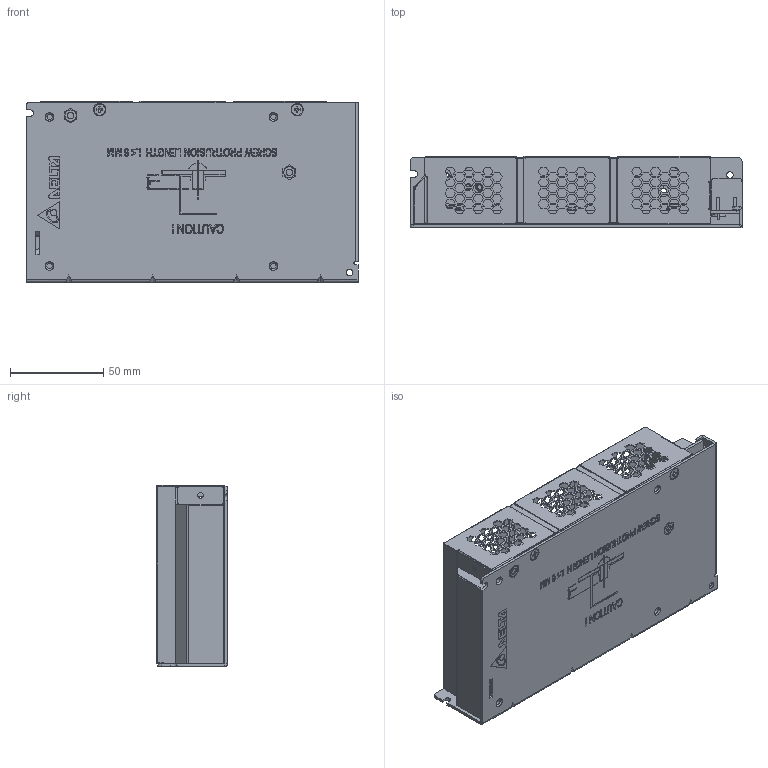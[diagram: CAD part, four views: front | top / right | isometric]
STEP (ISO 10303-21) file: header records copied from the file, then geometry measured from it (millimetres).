
FILE_DESCRIPTION((''),'2;1');
FILE_NAME('PMC-24V150W1AJ_ASM','2020-12-18T',('Natthinee.Dech'),(''),'PRO/ENGINEER BY PARAMETRIC TECHNOLOGY CORPORATION, 2010180','PRO/ENGINEER BY PARAMETRIC TECHNOLOGY CORPORATION, 2010180','');
FILE_SCHEMA(('CONFIG_CONTROL_DESIGN','SHAPE_APPEARANCE_LAYERS_GROUPS'));
Products named in the file (16): 331606170101; 326203860203; 3268095800; 2958037704_PWB; 307049867W; EE_LED; EE_VR; ASSY_PWB_PMC-24V150W1AJ_ASM; 3103301000; 3105320300; 3105320200; 3105317701; 331606180304; 331606180304_A_STUD; 331606180304_ASM; PMC-24V150W1AJ_ASM
Assembly tree (20 placements, depth 3):
  PMC-24V150W1AJ_ASM
    331606170101
    326203860203
    3268095800
    ASSY_PWB_PMC-24V150W1AJ_ASM
      2958037704_PWB
      307049867W
      EE_LED
      EE_VR
    3103301000  x2
    3105320300
    3105320200
    3105317701  x4
    331606180304_ASM
      331606180304
      331606180304_A_STUD  x2
Bounding box: 178 x 38.08 x 97.05 mm (x, y, z)
Volume: 88731.8 mm3; surface area: 143614 mm2
Topology: 18 solids, 18 shells, 5898 faces, 16279 edges, 10171 vertices
Faces by surface type: plane 4484, cylinder 536, extrusion 412, bspline 336, cone 106, torus 22, sphere 2
Entity records: 239190 total; most frequent: CARTESIAN_POINT 43201, ORIENTED_EDGE 31656, DIRECTION 26347, PRESENTATION_STYLE_ASSIGNMENT 16229, STYLED_ITEM 15977, CURVE_STYLE 15828, EDGE_CURVE 15828, VECTOR 14037
